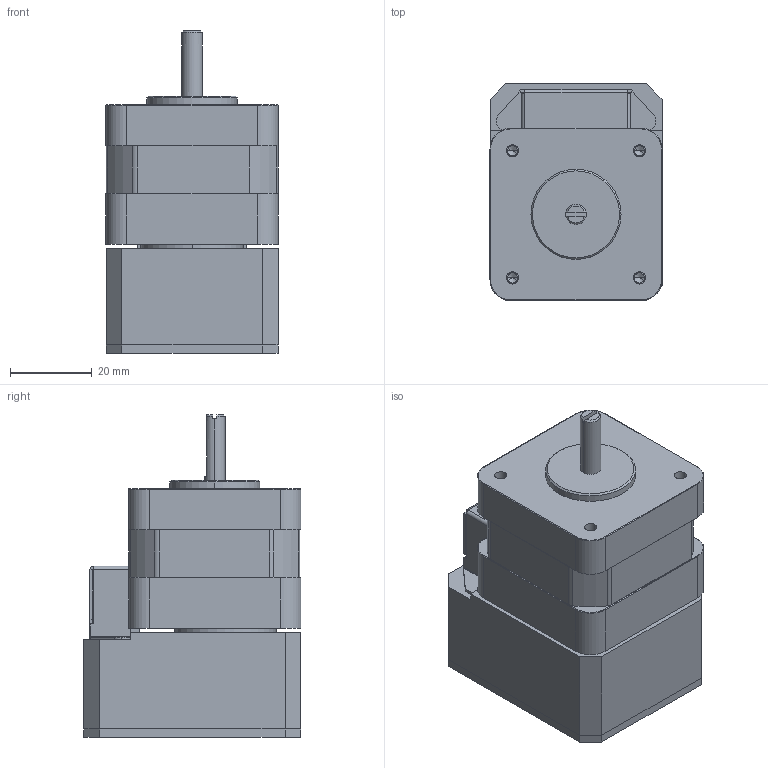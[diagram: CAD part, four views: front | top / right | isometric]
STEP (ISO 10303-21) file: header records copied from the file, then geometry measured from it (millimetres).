
FILE_DESCRIPTION (( 'STEP AP203' ), '1' );
FILE_NAME ('CM1-X-17S30.STEP', '2010-05-13T19:10:21', ( 'render' ), ( '' ), 'SwSTEP 2.0', 'SolidWorks 2009', '' );
FILE_SCHEMA (( 'CONFIG_CONTROL_DESIGN' ));
Length unit declared in the file: millimetre
Products named in the file (1): CM1-X-17S30
Bounding box: 42.03 x 53.15 x 78.71 mm (x, y, z)
Volume: 85412.7 mm3; surface area: 40387.6 mm2
Topology: 8 solids, 8 shells, 760 faces, 1962 edges, 1244 vertices
Faces by surface type: plane 566, cylinder 171, cone 13, torus 8, bspline 2
Entity records: 22906 total; most frequent: CARTESIAN_POINT 4131, ORIENTED_EDGE 3908, DIRECTION 3789, EDGE_CURVE 1954, LINE 1577, VECTOR 1577, VERTEX_POINT 1244, AXIS2_PLACEMENT_3D 1106
